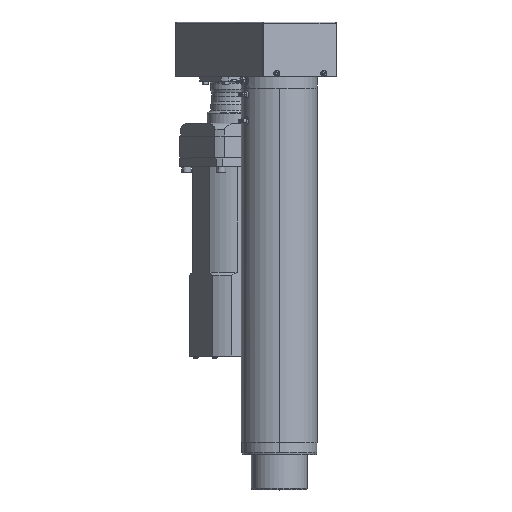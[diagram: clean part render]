
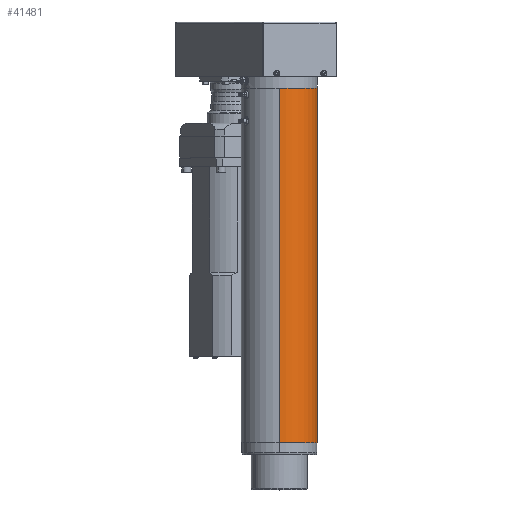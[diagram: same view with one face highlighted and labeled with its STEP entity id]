
A CAD part, top view. The second image highlights one B-rep face of the part: STEP entity #41481.
In plain terms, the highlighted cylindrical face has radius 64.5 mm (diameter 129 mm), a partial arc.
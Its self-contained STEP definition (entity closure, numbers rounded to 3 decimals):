
#2389 = EDGE_LOOP ( 'NONE', ( #8660, #31778, #24284, #26949 ) ) ;
#2874 = DIRECTION ( 'NONE',  ( 0., -1., 0. ) ) ;
#3685 = CARTESIAN_POINT ( 'NONE',  ( 71.219, 422.121, 161.694 ) ) ;
#3799 = LINE ( 'NONE', #40723, #43494 ) ;
#4324 = EDGE_CURVE ( 'NONE', #13681, #23270, #41185, .T. ) ;
#4325 = DIRECTION ( 'NONE',  ( 0., -1., 0. ) ) ;
#4390 = CIRCLE ( 'NONE', #23799, 64.5 ) ;
#5315 = CARTESIAN_POINT ( 'NONE',  ( 71.219, -198.379, 161.694 ) ) ;
#6229 = CARTESIAN_POINT ( 'NONE',  ( 71.219, -178.379, 97.194 ) ) ;
#7114 = CYLINDRICAL_SURFACE ( 'NONE', #19469, 64.5 ) ;
#7328 = EDGE_CURVE ( 'NONE', #45198, #23270, #4390, .T. ) ;
#8499 = DIRECTION ( 'NONE',  ( 0., -1., 0. ) ) ;
#8660 = ORIENTED_EDGE ( 'NONE', *, *, #46027, .T. ) ;
#10983 = AXIS2_PLACEMENT_3D ( 'NONE', #52327, #2874, #19060 ) ;
#11870 = CARTESIAN_POINT ( 'NONE',  ( 71.219, -178.379, 32.694 ) ) ;
#13681 = VERTEX_POINT ( 'NONE', #3685 ) ;
#16527 = EDGE_CURVE ( 'NONE', #29010, #45198, #3799, .T. ) ;
#17346 = DIRECTION ( 'NONE',  ( 0., -1., 0. ) ) ;
#19060 = DIRECTION ( 'NONE',  ( 0., 0., -1. ) ) ;
#19298 = DIRECTION ( 'NONE',  ( 0., 0., -1. ) ) ;
#19469 = AXIS2_PLACEMENT_3D ( 'NONE', #23222, #27715, #19298 ) ;
#22598 = CARTESIAN_POINT ( 'NONE',  ( 71.219, 422.121, 32.694 ) ) ;
#23222 = CARTESIAN_POINT ( 'NONE',  ( 71.219, -198.379, 97.194 ) ) ;
#23270 = VERTEX_POINT ( 'NONE', #40703 ) ;
#23799 = AXIS2_PLACEMENT_3D ( 'NONE', #6229, #17346, #33335 ) ;
#24284 = ORIENTED_EDGE ( 'NONE', *, *, #7328, .F. ) ;
#26949 = ORIENTED_EDGE ( 'NONE', *, *, #16527, .F. ) ;
#27715 = DIRECTION ( 'NONE',  ( 0., -1., 0. ) ) ;
#29010 = VERTEX_POINT ( 'NONE', #22598 ) ;
#30014 = VECTOR ( 'NONE', #8499, 1000. ) ;
#31778 = ORIENTED_EDGE ( 'NONE', *, *, #4324, .T. ) ;
#33335 = DIRECTION ( 'NONE',  ( 0., 0., -1. ) ) ;
#40703 = CARTESIAN_POINT ( 'NONE',  ( 71.219, -178.379, 161.694 ) ) ;
#40723 = CARTESIAN_POINT ( 'NONE',  ( 71.219, -198.379, 32.694 ) ) ;
#41185 = LINE ( 'NONE', #5315, #30014 ) ;
#41481 = ADVANCED_FACE ( 'NONE', ( #47507 ), #7114, .T. ) ;
#43494 = VECTOR ( 'NONE', #4325, 1000. ) ;
#44121 = CIRCLE ( 'NONE', #10983, 64.5 ) ;
#45198 = VERTEX_POINT ( 'NONE', #11870 ) ;
#46027 = EDGE_CURVE ( 'NONE', #29010, #13681, #44121, .T. ) ;
#47507 = FACE_OUTER_BOUND ( 'NONE', #2389, .T. ) ;
#52327 = CARTESIAN_POINT ( 'NONE',  ( 71.219, 422.121, 97.194 ) ) ;
